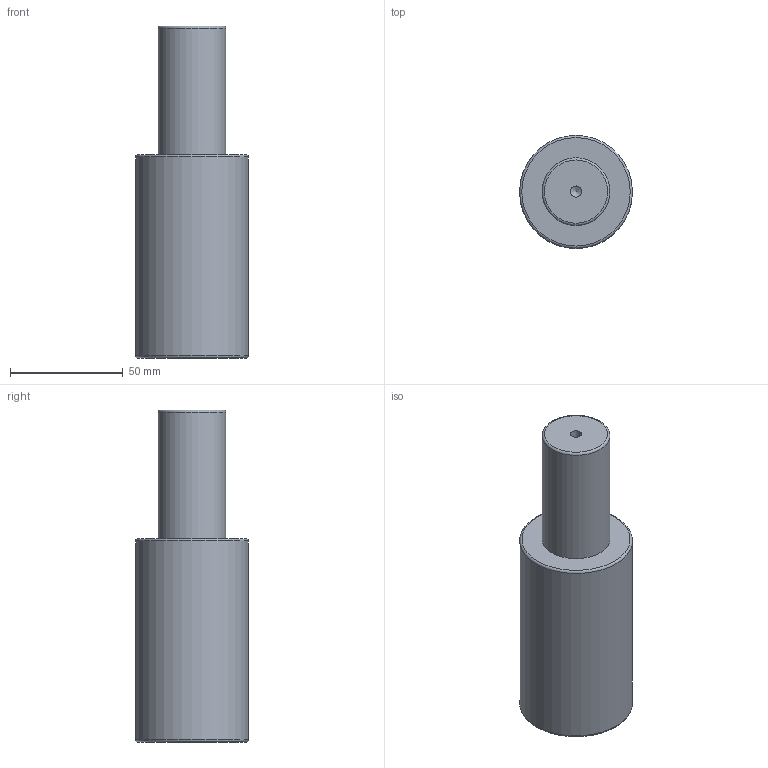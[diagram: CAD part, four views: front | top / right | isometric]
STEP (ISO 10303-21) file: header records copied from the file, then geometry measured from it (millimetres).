
FILE_DESCRIPTION(/* description */ (''),/* implementation_level */ '2;1');
FILE_NAME(/* name */ 'NV5-SMLX.50x56.stp',/* time_stamp */ '2018-08-31T16:08:33+02:00',/* author */ (''),/* organization */ (''),/* preprocessor_version */ 'ST-DEVELOPER v16',/* originating_system */ 'SIEMENS PLM Software NX 10.0',/* authorisation */ '');
FILE_SCHEMA (('AUTOMOTIVE_DESIGN { 1 0 10303 214 3 1 1 1 }'));
Length unit declared in the file: millimetre
Products named in the file (1): NV5-SMLX.50x56
Bounding box: 50 x 50 x 147 mm (x, y, z)
Volume: 215680 mm3; surface area: 23899.1 mm2
Topology: 1 solids, 1 shells, 12 faces, 24 edges, 15 vertices
Faces by surface type: cylinder 4, torus 3, plane 3, cone 2
Full cylindrical faces by diameter (mm): 5 x1, 8.5 x1, 30 x1, 50 x1
Entity records: 266 total; most frequent: DIRECTION 48, CARTESIAN_POINT 37, FACE_BOUND 24, AXIS2_PLACEMENT_3D 24, EDGE_LOOP 22, ORIENTED_EDGE 22, VERTEX_POINT 13, ADVANCED_FACE 12
